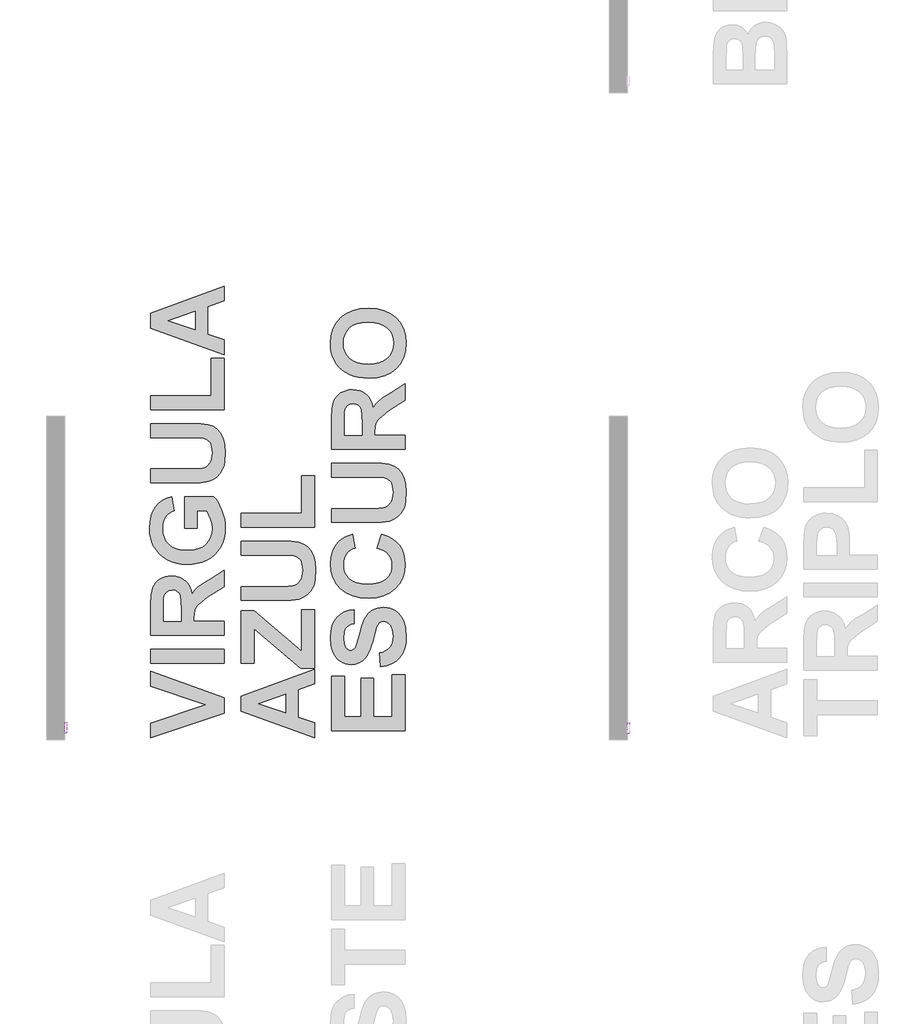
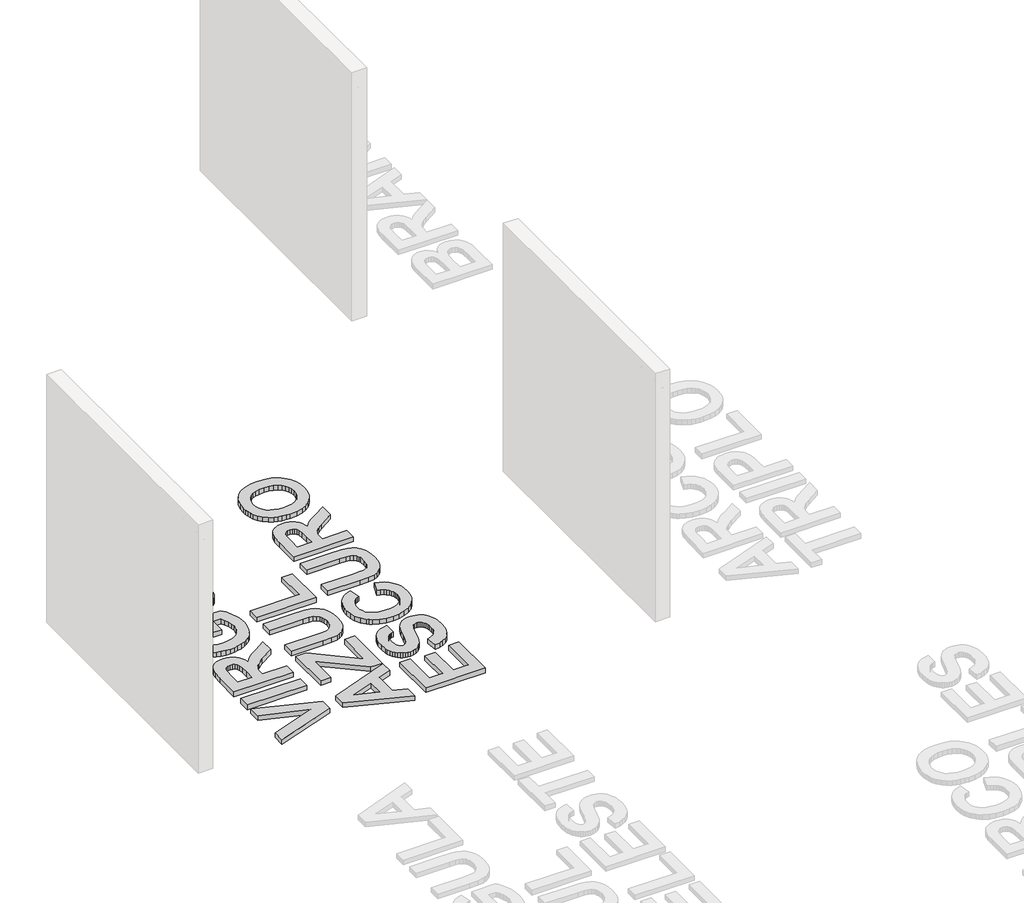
# One storey, part 10 of 12: 3 proxies.
"""IFC4 building model written with IfcOpenShell, lengths in millimetres."""

from ifc_helpers import new_model, si_unit, frame, origin, origin_with_axes, place, context, project, spatial, polyline, outline, extrude, element, save

model = new_model("IFC4")

# Units and contexts
model_context = context("Model", 3, world=origin())
ifc_project = project(units=[si_unit("LENGTHUNIT", "METRE", prefix="MILLI")], contexts=[model_context])

# Site, building, storey
site = spatial("IfcSite", under=ifc_project)
building = spatial("IfcBuilding", under=site)
storey = spatial("IfcBuildingStorey", under=building, Name="PORTOBELLO - SHOWROOM", Elevation=0.0)

# Proxies
placement = place(None, origin())
element("IfcBuildingElementProxy", 1, Name="10mm Arial", ObjectType="10mm Arial", at=placement, inside=storey, context=model_context, shape_type="SweptSolid", body=[
    extrude(outline(polyline([(1623.3898167, 2548.8308244), (1663.4889542, 2649.2871345), (1674.1820575, 2649.2871345), (1714.281195, 2548.8308244), (1701.0129177, 2548.8308244), (1689.510474, 2580.2234213), (1648.1360123, 2580.2234213), (1636.658094, 2548.8308244), (1623.3898167, 2548.8308244)]), holes=[polyline([(1652.7468, 2592.7804601), (1684.9242118, 2592.7804601), (1675.8743147, 2617.4776047), (1668.8355059, 2636.7300958), (1662.581512, 2619.6358457), (1652.7468, 2592.7804601)])]), frame((13302.9163978, 0.0, 0.0), z_axis=(1.0, 0.0, 0.0), x_axis=(0.0, 1.0, 0.0)), (0.0, 0.0, 1.0), 20.0),
    extrude(outline(polyline([(1726.1269953, 2548.8308244), (1726.1269953, 2622.6034272), (1737.1144042, 2622.6034272), (1737.1144042, 2611.6895946), (1744.9135025, 2621.7450358), (1752.7616517, 2624.173057), (1765.3677414, 2620.2980333), (1761.1738867, 2609.0408443), (1752.3447188, 2611.6160182), (1745.2445963, 2609.1389461), (1740.7196477, 2602.2718156), (1738.684034, 2587.6055867), (1738.684034, 2548.8308244), (1726.1269953, 2548.8308244)])), frame((13302.9163978, 0.0, 0.0), z_axis=(1.0, 0.0, 0.0), x_axis=(0.0, 1.0, 0.0)), (0.0, 0.0, 1.0), 20.0),
    extrude(outline(polyline([(1820.304786, 2575.5145318), (1832.8618248, 2573.9449019), (1829.3608145, 2562.7766177), (1822.7818581, 2554.3367916), (1813.7442238, 2549.0300938), (1802.8671795, 2547.2611945), (1789.5099973, 2549.7290696), (1779.0652144, 2557.1326947), (1772.3237768, 2569.1471076), (1770.076631, 2585.4473456), (1773.9148664, 2606.3062548), (1785.6135139, 2619.7094221), (1802.6955012, 2624.173057), (1813.3058311, 2622.6402154), (1821.7885767, 2618.0416904), (1827.8739581, 2610.6227368), (1831.292195, 2600.6286093), (1818.7351562, 2599.0589795), (1812.9103579, 2608.4644958), (1802.7936031, 2611.6160182), (1794.6787394, 2610.0647825), (1788.2377388, 2605.4110752), (1784.034687, 2597.4035105), (1782.6336697, 2585.7907022), (1784.0040302, 2574.021544), (1788.1151115, 2565.9863881), (1794.4396161, 2561.360272), (1802.4502465, 2559.8182333), (1814.283784, 2563.6687315), (1820.304786, 2575.5145318)])), frame((13302.9163978, 0.0, 0.0), z_axis=(1.0, 0.0, 0.0), x_axis=(0.0, 1.0, 0.0)), (0.0, 0.0, 1.0), 20.0),
    extrude(outline(polyline([(1840.709974, 2585.7171258), (1843.4261694, 2603.5042202), (1851.5747556, 2616.0060767), (1861.6424596, 2622.1313119), (1873.6967263, 2624.173057), (1886.8883615, 2621.6867878), (1897.425115, 2614.2279804), (1904.3320994, 2602.3852458), (1906.6344276, 2586.7471954), (1902.5632001, 2564.4044955), (1890.7051372, 2551.7616176), (1873.6967263, 2547.2611945), (1860.3456755, 2549.7382666), (1849.8211848, 2557.1694829), (1842.9877767, 2569.2605379), (1840.709974, 2585.7171258)]), holes=[polyline([(1853.2670128, 2585.7416512), (1854.7201467, 2574.3771633), (1859.0795483, 2566.2806937), (1865.6401106, 2561.4338484), (1873.6967263, 2559.8182333), (1881.7165538, 2561.4430455), (1888.2648533, 2566.3174819), (1892.6242549, 2574.5212504), (1894.0773888, 2586.1340587), (1892.6150579, 2597.1674529), (1888.2280651, 2605.1535578), (1881.6705685, 2610.0004031), (1873.6967263, 2611.6160182), (1865.6401106, 2610.0065345), (1859.0795483, 2605.1780833), (1854.7201467, 2597.1000078), (1853.2670128, 2585.7416512)])]), frame((13302.9163978, 0.0, 0.0), z_axis=(1.0, 0.0, 0.0), x_axis=(0.0, 1.0, 0.0)), (0.0, 0.0, 1.0), 20.0),
    extrude(outline(polyline([(1986.6855497, 2548.8308244), (1986.6855497, 2636.7300958), (1953.7233229, 2636.7300958), (1953.7233229, 2649.2871345), (2032.2048153, 2649.2871345), (2032.2048153, 2636.7300958), (1999.2425885, 2636.7300958), (1999.2425885, 2548.8308244), (1986.6855497, 2548.8308244)])), frame((13302.9163978, 0.0, 0.0), z_axis=(1.0, 0.0, 0.0), x_axis=(0.0, 1.0, 0.0)), (0.0, 0.0, 1.0), 20.0),
    extrude(outline(polyline([(2044.761854, 2548.8308244), (2044.761854, 2622.6034272), (2055.7492629, 2622.6034272), (2055.7492629, 2611.6895946), (2063.5483612, 2621.7450358), (2071.3965105, 2624.173057), (2084.0026002, 2620.2980333), (2079.8087454, 2609.0408443), (2070.9795775, 2611.6160182), (2063.879455, 2609.1389461), (2059.3545065, 2602.2718156), (2057.3188928, 2587.6055867), (2057.3188928, 2548.8308244), (2044.761854, 2548.8308244)])), frame((13302.9163978, 0.0, 0.0), z_axis=(1.0, 0.0, 0.0), x_axis=(0.0, 1.0, 0.0)), (0.0, 0.0, 1.0), 20.0),
    extrude(outline(polyline([(13322.9163978, 2104.4077882), (13322.9163978, 2091.8507494), (13302.9163978, 2091.8507494), (13302.9163978, 2104.4077882), (13322.9163978, 2104.4077882)])), frame((0.0, 0.0, 2636.7300958), z_axis=(0.0, 0.0, 1.0), x_axis=(1.0, 0.0, 0.0)), (0.0, 0.0, 1.0), 12.5570388),
    extrude(outline(polyline([(13322.9163978, 2104.4077882), (13322.9163978, 2091.8507494), (13302.9163978, 2091.8507494), (13302.9163978, 2104.4077882), (13322.9163978, 2104.4077882)])), frame((0.0, 0.0, 2548.8308244), z_axis=(0.0, 0.0, 1.0), x_axis=(1.0, 0.0, 0.0)), (0.0, 0.0, 1.0), 73.7726028),
    extrude(outline(polyline([(2123.2433463, 2520.5774872), (2123.2433463, 2622.6034272), (2135.8003851, 2622.6034272), (2135.8003851, 2610.291643), (2144.4824002, 2620.7027035), (2156.2055731, 2624.173057), (2172.1226007, 2619.3170147), (2182.5213985, 2605.6318044), (2186.0285402, 2586.2812115), (2182.0676774, 2565.9373372), (2170.5652336, 2552.0804487), (2154.6849942, 2547.2611945), (2143.7588989, 2550.4862934), (2135.8003851, 2558.6410109), (2135.8003851, 2520.5774872), (2123.2433463, 2520.5774872)]), holes=[polyline([(2135.8003851, 2585.1285146), (2137.1584828, 2573.8713255), (2141.2327759, 2565.9986508), (2147.2445808, 2561.3633377), (2154.415214, 2559.8182333), (2161.7023432, 2561.41852), (2167.8674323, 2566.21938), (2172.0704841, 2574.3802289), (2173.4715014, 2586.0604823), (2172.1042066, 2597.2563577), (2168.0023224, 2605.239397), (2161.9997145, 2610.0218629), (2154.9302488, 2611.6160182), (2147.833192, 2609.9206954), (2141.6006579, 2604.8347268), (2137.2504533, 2596.517528), (2135.8003851, 2585.1285146)])]), frame((13302.9163978, 0.0, 0.0), z_axis=(1.0, 0.0, 0.0), x_axis=(0.0, 1.0, 0.0)), (0.0, 0.0, 1.0), 20.0),
    extrude(outline(polyline([(13322.9163978, 2212.7122476), (13322.9163978, 2200.1552088), (13302.9163978, 2200.1552088), (13302.9163978, 2212.7122476), (13322.9163978, 2212.7122476)])), frame((0.0, 0.0, 2548.8308244), z_axis=(0.0, 0.0, 1.0), x_axis=(1.0, 0.0, 0.0)), (0.0, 0.0, 1.0), 100.4563101),
    extrude(outline(polyline([(2228.408546, 2585.7171258), (2231.1247414, 2603.5042202), (2239.2733276, 2616.0060767), (2249.3410315, 2622.1313119), (2261.3952982, 2624.173057), (2274.5869335, 2621.6867878), (2285.1236869, 2614.2279804), (2292.0306714, 2602.3852458), (2294.3329995, 2586.7471954), (2290.2617721, 2564.4044955), (2278.4037092, 2551.7616176), (2261.3952982, 2547.2611945), (2248.0442475, 2549.7382666), (2237.5197568, 2557.1694829), (2230.6863487, 2569.2605379), (2228.408546, 2585.7171258)]), holes=[polyline([(2240.9655848, 2585.7416512), (2242.4187187, 2574.3771633), (2246.7781203, 2566.2806937), (2253.3386826, 2561.4338484), (2261.3952982, 2559.8182333), (2269.4151257, 2561.4430455), (2275.9634253, 2566.3174819), (2280.3228269, 2574.5212504), (2281.7759608, 2586.1340587), (2280.3136298, 2597.1674529), (2275.9266371, 2605.1535578), (2269.3691405, 2610.0004031), (2261.3952982, 2611.6160182), (2253.3386826, 2610.0065345), (2246.7781203, 2605.1780833), (2242.4187187, 2597.1000078), (2240.9655848, 2585.7416512)])]), frame((13302.9163978, 0.0, 0.0), z_axis=(1.0, 0.0, 0.0), x_axis=(0.0, 1.0, 0.0)), (0.0, 0.0, 1.0), 20.0),
])
element("IfcBuildingElementProxy", 2, Name="10mm Arial", ObjectType="10mm Arial", at=placement, inside=storey, context=model_context, shape_type="SweptSolid", body=[
    extrude(outline(polyline([(1664.7642785, 2548.8308244), (1624.7877683, 2649.2871345), (1638.2277239, 2649.2871345), (1664.9850077, 2576.9124833), (1670.4051357, 2560.6030482), (1675.7516874, 2576.9124833), (1702.5825476, 2649.2871345), (1716.0225031, 2649.2871345), (1677.7382502, 2548.8308244), (1664.7642785, 2548.8308244)])), frame((8602.9163978, 0.0, 0.0), z_axis=(1.0, 0.0, 0.0), x_axis=(0.0, 1.0, 0.0)), (0.0, 0.0, 1.0), 20.0),
    extrude(outline(polyline([(8622.9163978, 1738.684034), (8622.9163978, 1726.1269953), (8602.9163978, 1726.1269953), (8602.9163978, 1738.684034), (8622.9163978, 1738.684034)])), frame((0.0, 0.0, 2548.8308244), z_axis=(0.0, 0.0, 1.0), x_axis=(1.0, 0.0, 0.0)), (0.0, 0.0, 1.0), 73.7726028),
    extrude(outline(polyline([(8622.9163978, 1738.684034), (8622.9163978, 1726.1269953), (8602.9163978, 1726.1269953), (8602.9163978, 1738.684034), (8622.9163978, 1738.684034)])), frame((0.0, 0.0, 2636.7300958), z_axis=(0.0, 0.0, 1.0), x_axis=(1.0, 0.0, 0.0)), (0.0, 0.0, 1.0), 12.5570388),
    extrude(outline(polyline([(1757.5195922, 2548.8308244), (1757.5195922, 2622.6034272), (1768.5070011, 2622.6034272), (1768.5070011, 2611.6895946), (1776.3060994, 2621.7450358), (1784.1542486, 2624.173057), (1796.7603383, 2620.2980333), (1792.5664836, 2609.0408443), (1783.7373157, 2611.6160182), (1776.6371932, 2609.1389461), (1772.1122447, 2602.2718156), (1770.076631, 2587.6055867), (1770.076631, 2548.8308244), (1757.5195922, 2548.8308244)])), frame((8602.9163978, 0.0, 0.0), z_axis=(1.0, 0.0, 0.0), x_axis=(0.0, 1.0, 0.0)), (0.0, 0.0, 1.0), 20.0),
    extrude(outline(polyline([(1801.4692279, 2542.552305), (1814.0262666, 2540.9826752), (1818.0974941, 2534.3607992), (1830.2866508, 2531.5648961), (1843.1379952, 2534.7286812), (1849.2693618, 2543.6069001), (1850.1277531, 2558.2486035), (1841.2863225, 2551.1852692), (1830.50738, 2548.8308244), (1817.5609995, 2551.5715452), (1807.9071628, 2559.7937078), (1801.9014892, 2571.8479745), (1799.899598, 2586.0850078), (1803.4925788, 2605.5459653), (1813.8913766, 2619.3170147), (1829.8942434, 2624.173057), (1841.0962501, 2621.4262048), (1850.1277531, 2613.1856481), (1850.1277531, 2622.6034272), (1862.6847919, 2622.6034272), (1862.6847919, 2558.9107911), (1859.2512266, 2534.5202148), (1848.3741823, 2523.1771866), (1830.0413962, 2519.0078573), (1818.3580771, 2520.4763196), (1809.1579616, 2524.8817065), (1803.2565212, 2532.2362807), (1801.4692279, 2542.552305)]), holes=[polyline([(1812.4566368, 2586.9433991), (1813.7963404, 2575.425627), (1817.8154512, 2567.506967), (1823.857913, 2562.9176391), (1831.2676695, 2561.3878632), (1838.6222437, 2562.9084421), (1844.6953623, 2567.4701788), (1848.7696554, 2575.2876712), (1850.1277531, 2586.5755171), (1848.7298015, 2597.4617585), (1844.5359468, 2605.3007106), (1838.3739234, 2610.0371913), (1831.0714658, 2611.6160182), (1823.9008325, 2610.0617168), (1817.8890276, 2605.3988125), (1813.8147345, 2597.6763563), (1812.4566368, 2586.9433991)])]), frame((8602.9163978, 0.0, 0.0), z_axis=(1.0, 0.0, 0.0), x_axis=(0.0, 1.0, 0.0)), (0.0, 0.0, 1.0), 20.0),
    extrude(outline(polyline([(1928.6092454, 2548.8308244), (1928.6092454, 2561.5104905), (1918.7745334, 2550.8235185), (1905.9477145, 2547.2611945), (1894.1387025, 2549.7627921), (1885.9962476, 2556.0413115), (1882.256114, 2565.2874123), (1881.52035, 2576.9615343), (1881.52035, 2622.6034272), (1894.0773888, 2622.6034272), (1894.0773888, 2582.8721717), (1894.8376783, 2570.0698782), (1899.8040852, 2562.5528228), (1909.1605506, 2559.8182333), (1919.6451875, 2562.6141365), (1926.5736317, 2570.2292938), (1928.6092454, 2584.2210723), (1928.6092454, 2622.6034272), (1941.1662842, 2622.6034272), (1941.1662842, 2548.8308244), (1928.6092454, 2548.8308244)])), frame((8602.9163978, 0.0, 0.0), z_axis=(1.0, 0.0, 0.0), x_axis=(0.0, 1.0, 0.0)), (0.0, 0.0, 1.0), 20.0),
    extrude(outline(polyline([(8622.9163978, 1970.9892513), (8622.9163978, 1958.4322125), (8602.9163978, 1958.4322125), (8602.9163978, 1970.9892513), (8622.9163978, 1970.9892513)])), frame((0.0, 0.0, 2548.8308244), z_axis=(0.0, 0.0, 1.0), x_axis=(1.0, 0.0, 0.0)), (0.0, 0.0, 1.0), 100.4563101),
    extrude(outline(polyline([(2036.9137048, 2558.2486035), (2024.7368107, 2549.7382666), (2011.2845925, 2547.2611945), (2000.7907585, 2548.7511166), (1993.0499082, 2553.2208829), (1988.2766393, 2560.0083057), (1986.6855497, 2568.4511975), (1989.0890454, 2578.3840113), (1995.404353, 2585.5944984), (2004.1967327, 2589.7147768), (2015.0615143, 2591.6032377), (2036.8401284, 2595.9197198), (2036.9137048, 2598.7156229), (2033.455614, 2607.9862492), (2019.5742001, 2611.6160182), (2006.8700085, 2609.2002598), (2000.8122183, 2600.6286093), (1988.2551796, 2602.1982392), (1993.6875704, 2614.4609723), (2004.6259283, 2621.646934), (2021.1928809, 2624.173057), (2036.4109327, 2621.9412396), (2045.0071087, 2616.3371705), (2048.8576069, 2607.8145709), (2049.4707436, 2596.827162), (2049.4707436, 2581.20444), (2050.1084057, 2559.3890376), (2052.6100032, 2548.8308244), (2040.0529645, 2548.8308244), (2036.9137048, 2558.2486035)]), holes=[polyline([(2036.9137048, 2583.362681), (2016.6556696, 2579.5121828), (2005.8522017, 2577.4765691), (2000.9593711, 2574.1656311), (1999.2425885, 2569.3341142), (2002.9827221, 2562.5405601), (2013.9578683, 2559.8182333), (2026.6620599, 2562.8226029), (2034.8535656, 2570.0944037), (2036.8401284, 2579.8064884), (2036.9137048, 2583.362681)])]), frame((8602.9163978, 0.0, 0.0), z_axis=(1.0, 0.0, 0.0), x_axis=(0.0, 1.0, 0.0)), (0.0, 0.0, 1.0), 20.0),
    extrude(outline(polyline([(2095.8484004, 2548.8308244), (2135.9475379, 2649.2871345), (2146.6406412, 2649.2871345), (2186.7397787, 2548.8308244), (2173.4715014, 2548.8308244), (2161.9690577, 2580.2234213), (2120.594596, 2580.2234213), (2109.1166777, 2548.8308244), (2095.8484004, 2548.8308244)]), holes=[polyline([(2125.2053836, 2592.7804601), (2157.3827955, 2592.7804601), (2148.3328984, 2617.4776047), (2141.2940896, 2636.7300958), (2135.0400956, 2619.6358457), (2125.2053836, 2592.7804601)])]), frame((8602.9163978, 0.0, 0.0), z_axis=(1.0, 0.0, 0.0), x_axis=(0.0, 1.0, 0.0)), (0.0, 0.0, 1.0), 20.0),
    extrude(outline(polyline([(2190.7374297, 2548.8308244), (2190.7374297, 2560.6520992), (2234.0739287, 2610.0463884), (2221.2471098, 2610.0463884), (2193.8766894, 2610.0463884), (2193.8766894, 2622.6034272), (2251.9529937, 2622.6034272), (2251.9529937, 2611.9348493), (2213.5215879, 2568.1078409), (2207.635476, 2561.3878632), (2222.1545521, 2561.3878632), (2253.5226235, 2561.3878632), (2253.5226235, 2548.8308244), (2190.7374297, 2548.8308244)])), frame((8602.9163978, 0.0, 0.0), z_axis=(1.0, 0.0, 0.0), x_axis=(0.0, 1.0, 0.0)), (0.0, 0.0, 1.0), 20.0),
    extrude(outline(polyline([(2313.1685577, 2548.8308244), (2313.1685577, 2561.5104905), (2303.3338457, 2550.8235185), (2290.5070268, 2547.2611945), (2278.6980148, 2549.7627921), (2270.5555599, 2556.0413115), (2266.8154263, 2565.2874123), (2266.0796623, 2576.9615343), (2266.0796623, 2622.6034272), (2278.6367011, 2622.6034272), (2278.6367011, 2582.8721717), (2279.3969905, 2570.0698782), (2284.3633975, 2562.5528228), (2293.7198629, 2559.8182333), (2304.2044998, 2562.6141365), (2311.132944, 2570.2292938), (2313.1685577, 2584.2210723), (2313.1685577, 2622.6034272), (2325.7255965, 2622.6034272), (2325.7255965, 2548.8308244), (2313.1685577, 2548.8308244)])), frame((8602.9163978, 0.0, 0.0), z_axis=(1.0, 0.0, 0.0), x_axis=(0.0, 1.0, 0.0)), (0.0, 0.0, 1.0), 20.0),
    extrude(outline(polyline([(8622.9163978, 2355.5485635), (8622.9163978, 2342.9915248), (8602.9163978, 2342.9915248), (8602.9163978, 2355.5485635), (8622.9163978, 2355.5485635)])), frame((0.0, 0.0, 2548.8308244), z_axis=(0.0, 0.0, 1.0), x_axis=(1.0, 0.0, 0.0)), (0.0, 0.0, 1.0), 100.4563101),
    extrude(outline(polyline([(2415.1944977, 2548.8308244), (2415.1944977, 2649.2871345), (2487.3974706, 2649.2871345), (2487.3974706, 2636.7300958), (2427.7515365, 2636.7300958), (2427.7515365, 2606.9071287), (2484.2582109, 2606.9071287), (2484.2582109, 2594.3500899), (2427.7515365, 2594.3500899), (2427.7515365, 2561.3878632), (2488.9671005, 2561.3878632), (2488.9671005, 2548.8308244), (2415.1944977, 2548.8308244)])), frame((8602.9163978, 0.0, 0.0), z_axis=(1.0, 0.0, 0.0), x_axis=(0.0, 1.0, 0.0)), (0.0, 0.0, 1.0), 20.0),
    extrude(outline(polyline([(2501.5241392, 2570.8056422), (2514.081178, 2572.3752721), (2519.8937135, 2563.0555949), (2533.2110417, 2559.8182333), (2546.0133352, 2562.7858147), (2550.1826645, 2569.7510472), (2545.9888097, 2575.3919044), (2533.063889, 2578.9726225), (2514.1547544, 2585.1162518), (2505.901935, 2592.2899507), (2503.0937691, 2602.4189683), (2505.350112, 2611.7754338), (2511.506004, 2618.9246072), (2519.4890433, 2622.6402154), (2530.2925113, 2624.173057), (2545.5718768, 2621.7082476), (2555.2839615, 2615.0373208), (2559.6004435, 2603.767869), (2547.0434048, 2602.1982392), (2542.3222525, 2609.1266834), (2531.2735299, 2611.6160182), (2519.2560514, 2609.237048), (2515.6508078, 2603.6942926), (2517.1468613, 2600.0399981), (2521.8312254, 2597.2686204), (2532.646956, 2594.5953446), (2551.077844, 2588.6847072), (2559.6372317, 2581.9892549), (2562.7397032, 2571.0754224), (2559.0976715, 2559.0579439), (2548.5885091, 2550.3391406), (2533.0393635, 2547.2611945), (2520.3780915, 2548.7449853), (2511.138122, 2553.1963574), (2504.9699673, 2560.56626), (2501.5241392, 2570.8056422)])), frame((8602.9163978, 0.0, 0.0), z_axis=(1.0, 0.0, 0.0), x_axis=(0.0, 1.0, 0.0)), (0.0, 0.0, 1.0), 20.0),
    extrude(outline(polyline([(2623.9552672, 2575.5145318), (2636.512306, 2573.9449019), (2633.0112957, 2562.7766177), (2626.4323393, 2554.3367916), (2617.394705, 2549.0300938), (2606.5176607, 2547.2611945), (2593.1604785, 2549.7290696), (2582.7156956, 2557.1326947), (2575.974258, 2569.1471076), (2573.7271122, 2585.4473456), (2577.5653476, 2606.3062548), (2589.2639951, 2619.7094221), (2606.3459824, 2624.173057), (2616.9563123, 2622.6402154), (2625.4390579, 2618.0416904), (2631.5244393, 2610.6227368), (2634.9426761, 2600.6286093), (2622.3856374, 2599.0589795), (2616.5608391, 2608.4644958), (2606.4440843, 2611.6160182), (2598.3292206, 2610.0647825), (2591.88822, 2605.4110752), (2587.6851682, 2597.4035105), (2586.2841509, 2585.7907022), (2587.6545114, 2574.021544), (2591.7655926, 2565.9863881), (2598.0900973, 2561.360272), (2606.1007277, 2559.8182333), (2617.9342652, 2563.6687315), (2623.9552672, 2575.5145318)])), frame((8602.9163978, 0.0, 0.0), z_axis=(1.0, 0.0, 0.0), x_axis=(0.0, 1.0, 0.0)), (0.0, 0.0, 1.0), 20.0),
    extrude(outline(polyline([(2694.5886103, 2548.8308244), (2694.5886103, 2561.5104905), (2684.7538983, 2550.8235185), (2671.9270794, 2547.2611945), (2660.1180674, 2549.7627921), (2651.9756125, 2556.0413115), (2648.2354789, 2565.2874123), (2647.4997149, 2576.9615343), (2647.4997149, 2622.6034272), (2660.0567537, 2622.6034272), (2660.0567537, 2582.8721717), (2660.8170431, 2570.0698782), (2665.7834501, 2562.5528228), (2675.1399155, 2559.8182333), (2685.6245523, 2562.6141365), (2692.5529966, 2570.2292938), (2694.5886103, 2584.2210723), (2694.5886103, 2622.6034272), (2707.1456491, 2622.6034272), (2707.1456491, 2548.8308244), (2694.5886103, 2548.8308244)])), frame((8602.9163978, 0.0, 0.0), z_axis=(1.0, 0.0, 0.0), x_axis=(0.0, 1.0, 0.0)), (0.0, 0.0, 1.0), 20.0),
    extrude(outline(polyline([(2724.4115774, 2548.8308244), (2724.4115774, 2622.6034272), (2735.3989863, 2622.6034272), (2735.3989863, 2611.6895946), (2743.1980846, 2621.7450358), (2751.0462338, 2624.173057), (2763.6523235, 2620.2980333), (2759.4584688, 2609.0408443), (2750.6293009, 2611.6160182), (2743.5291784, 2609.1389461), (2739.0042299, 2602.2718156), (2736.9686161, 2587.6055867), (2736.9686161, 2548.8308244), (2724.4115774, 2548.8308244)])), frame((8602.9163978, 0.0, 0.0), z_axis=(1.0, 0.0, 0.0), x_axis=(0.0, 1.0, 0.0)), (0.0, 0.0, 1.0), 20.0),
    extrude(outline(polyline([(2768.3612131, 2585.7171258), (2771.0774085, 2603.5042202), (2779.2259947, 2616.0060767), (2789.2936986, 2622.1313119), (2801.3479653, 2624.173057), (2814.5396005, 2621.6867878), (2825.076354, 2614.2279804), (2831.9833384, 2602.3852458), (2834.2856666, 2586.7471954), (2830.2144392, 2564.4044955), (2818.3563762, 2551.7616176), (2801.3479653, 2547.2611945), (2787.9969146, 2549.7382666), (2777.4724238, 2557.1694829), (2770.6390158, 2569.2605379), (2768.3612131, 2585.7171258)]), holes=[polyline([(2780.9182518, 2585.7416512), (2782.3713857, 2574.3771633), (2786.7307874, 2566.2806937), (2793.2913496, 2561.4338484), (2801.3479653, 2559.8182333), (2809.3677928, 2561.4430455), (2815.9160923, 2566.3174819), (2820.275494, 2574.5212504), (2821.7286278, 2586.1340587), (2820.2662969, 2597.1674529), (2815.8793041, 2605.1535578), (2809.3218075, 2610.0004031), (2801.3479653, 2611.6160182), (2793.2913496, 2610.0065345), (2786.7307874, 2605.1780833), (2782.3713857, 2597.1000078), (2780.9182518, 2585.7416512)])]), frame((8602.9163978, 0.0, 0.0), z_axis=(1.0, 0.0, 0.0), x_axis=(0.0, 1.0, 0.0)), (0.0, 0.0, 1.0), 20.0),
])
element("IfcBuildingElementProxy", 3, Name="600mm Arial", ObjectType="600mm Arial", at=placement, inside=storey, context=model_context, shape_type="SweptSolid", body=[
    extrude(outline(polyline([(9936.2154342, 1794.6763758), (9324.0597942, 1588.347131), (9324.0597942, 1711.3248266), (9780.7473352, 1865.2746825), (9324.0597942, 2019.6800113), (9324.0597942, 2142.2022339), (9936.2154342, 1924.9416384), (9936.2154342, 1794.6763758)])), origin_with_axes(), (0.0, 0.0, 1.0), 50.0),
    extrude(outline(polyline([(9936.2154342, 2210.2195272), (9324.0597942, 2210.2195272), (9324.0597942, 2326.8206015), (9936.2154342, 2326.8206015), (9936.2154342, 2210.2195272)])), origin_with_axes(), (0.0, 0.0, 1.0), 50.0),
    extrude(outline(polyline([(9936.2154342, 2443.4216758), (9324.0597942, 2443.4216758), (9324.0597942, 2700.9157148), (9328.1970068, 2784.7986491), (9333.3685226, 2816.7766455), (9340.6086446, 2842.1123282), (9350.4962032, 2863.0261276), (9363.6100284, 2881.7384745), (9379.9501204, 2898.2493688), (9399.516479, 2912.5588106), (9421.4645816, 2924.1164366), (9444.9499054, 2932.3718837), (9469.9724504, 2937.325152), (9496.5322166, 2938.9762415), (9529.6394064, 2936.589753), (9559.7290879, 2929.4302876), (9586.8012612, 2917.4978453), (9610.8559262, 2900.7924261), (9631.3142527, 2879.333008), (9647.5974105, 2853.1385691), (9659.7053997, 2822.2091093), (9667.6382201, 2786.5446287), (9692.0060228, 2820.363495), (9718.6511901, 2847.7298279), (9757.2525223, 2876.0450627), (9817.4888195, 2912.7106349), (9936.2154342, 2987.5600224), (9936.2154342, 2851.3736114), (9796.3852397, 2762.7082112), (9742.6963661, 2719.8747762), (9713.4132513, 2693.0967626), (9699.0089193, 2673.7771184), (9689.9563945, 2653.3187919), (9685.1739286, 2626.1612175), (9683.5797733, 2586.7438296), (9683.5797733, 2560.0227501), (9936.2154342, 2560.0227501), (9936.2154342, 2443.4216758)]), holes=[polyline([(9576.6954552, 2560.0227501), (9576.6954552, 2656.1275417), (9574.9304975, 2731.9827654), (9569.6356245, 2772.8045282), (9560.0327366, 2793.5665033), (9545.343734, 2809.2423639), (9525.9671558, 2819.0919664), (9502.3015406, 2822.3751672), (9476.0928681, 2818.0481742), (9455.4637393, 2805.0671952), (9440.907583, 2784.1913518), (9432.9178284, 2756.1797656), (9430.9441123, 2661.4413928), (9430.9441123, 2560.0227501), (9576.6954552, 2560.0227501)])]), origin_with_axes(), (0.0, 0.0, 1.0), 50.0),
    extrude(outline(polyline([(9712.7300418, 3337.3632453), (9605.8457237, 3337.3632453), (9605.8457237, 3599.7156624), (9849.979223, 3599.7156624), (9868.4590889, 3578.4412802), (9885.7907834, 3552.8778611), (9917.0096583, 3488.8839121), (9929.6632661, 3452.4840325), (9938.7015574, 3415.8564164), (9944.1245321, 3379.0010638), (9945.9321904, 3341.9179747), (9943.4176002, 3296.2093667), (9935.8738295, 3253.518267), (9923.3008784, 3213.8446756), (9905.6987468, 3177.1885924), (9883.423273, 3144.2237379), (9856.8302953, 3115.6238325), (9825.9198135, 3091.3888762), (9790.6918278, 3071.5188689), (9752.4842899, 3056.0422777), (9712.6351516, 3044.9875697), (9671.1444129, 3038.354745), (9628.0120738, 3036.1438034), (9581.662957, 3038.6441601), (9537.9612767, 3046.1452301), (9496.9070329, 3058.6470136), (9458.5002256, 3076.1495105), (9423.5758885, 3098.4724294), (9392.9690554, 3125.4354789), (9366.6797263, 3157.0386591), (9344.7079011, 3193.2819699), (9331.4232735, 3224.4628887), (9321.9342538, 3259.2496349), (9316.240842, 3297.6422087), (9314.343038, 3339.64061), (9317.4079914, 3393.3911622), (9326.6028515, 3440.9264064), (9341.9276184, 3482.2463428), (9363.3822919, 3517.3509712), (9390.2457068, 3546.4964953), (9421.7966973, 3569.9391185), (9458.0352636, 3587.6788409), (9498.9614057, 3599.7156624), (9518.394918, 3483.1145881), (9497.0398792, 3474.7927178), (9478.0665842, 3463.4912953), (9461.4750333, 3449.2103207), (9447.2652262, 3431.9497938), (9435.8736581, 3412.0323414), (9427.7368237, 3389.7805902), (9422.854723, 3365.1945401), (9421.2273561, 3338.2741911), (9424.4061777, 3297.9363683), (9433.9426426, 3261.9445165), (9449.8367506, 3230.2986358), (9472.0885018, 3202.9987261), (9500.6030061, 3181.0126674), (9535.2853731, 3165.3083398), (9576.135603, 3155.8857432), (9623.1536957, 3152.7448776), (9673.7538933, 3155.8667651), (9717.607398, 3165.2324276), (9754.7142096, 3180.841865), (9785.0743282, 3202.6950774), (9808.6877537, 3229.6154264), (9825.5544863, 3260.4262734), (9835.6745258, 3295.1276185), (9839.0478723, 3333.7194617), (9835.3471546, 3373.7441469), (9824.2450015, 3413.9586124), (9807.8669535, 3451.4022842), (9788.3385509, 3483.1145881), (9712.7300418, 3483.1145881), (9712.7300418, 3337.3632453)])), origin_with_axes(), (0.0, 0.0, 1.0), 50.0),
    extrude(outline(polyline([(9324.0597942, 3716.3167367), (9324.0597942, 3832.9178109), (9654.2776804, 3832.9178109), (9719.1066631, 3834.1703616), (9756.3036204, 3837.9280134), (9774.0623208, 3843.7447824), (9789.9896404, 3852.5411037), (9804.0855792, 3864.3169772), (9816.3501371, 3879.0724029), (9826.2803963, 3896.8073807), (9833.3734385, 3917.5219107), (9839.0478723, 3967.8896274), (9833.6960652, 4018.2004099), (9827.0063063, 4038.0466947), (9817.6406438, 4054.3535751), (9793.7852483, 4077.6396294), (9765.0335185, 4089.3490798), (9723.5285463, 4093.789941), (9661.4134232, 4095.2702281), (9324.0597942, 4095.2702281), (9324.0597942, 4211.8713024), (9645.1682215, 4211.8713024), (9739.1854288, 4209.3282451), (9800.7881448, 4201.6990732), (9842.6726778, 4187.2378072), (9877.5353363, 4164.1984673), (9905.6797688, 4132.2584269), (9927.4096239, 4091.0950594), (9941.3015488, 4038.3171317), (9945.9321904, 3971.533411), (9940.8840319, 3893.3059324), (9934.5738338, 3862.2483709), (9925.7395564, 3836.5615945), (9902.5104362, 3795.3792489), (9873.2083433, 3763.8377474), (9840.0726864, 3741.6713974), (9805.3428743, 3728.6145062), (9740.2861551, 3719.3911791), (9650.1784239, 3716.3167367), (9324.0597942, 3716.3167367)])), origin_with_axes(), (0.0, 0.0, 1.0), 50.0),
    extrude(outline(polyline([(9936.2154342, 4328.4723766), (9324.0597942, 4328.4723766), (9324.0597942, 4445.0734509), (9829.3311161, 4445.0734509), (9829.3311161, 4756.009649), (9936.2154342, 4756.009649), (9936.2154342, 4328.4723766)])), origin_with_axes(), (0.0, 0.0, 1.0), 50.0),
    extrude(outline(polyline([(9936.2154342, 5358.4485328), (9936.2154342, 5235.9263102), (9800.1808475, 5187.9498265), (9800.1808475, 4956.7213941), (9936.2154342, 4909.3522076), (9936.2154342, 4785.1599176), (9324.0597942, 5008.6453099), (9324.0597942, 5132.8376), (9936.2154342, 5358.4485328)]), holes=[polyline([(9693.2965295, 5150.6010449), (9469.8111371, 5071.8042252), (9693.2965295, 4994.0701757), (9693.2965295, 5150.6010449)])]), origin_with_axes(), (0.0, 0.0, 1.0), 50.0),
    extrude(outline(polyline([(10691.6835332, 2161.6357463), (10691.6835332, 2039.1135237), (10555.6489466, 1991.13704), (10555.6489466, 1759.9086075), (10691.6835332, 1712.5394211), (10691.6835332, 1588.347131), (10079.5278933, 1811.8325234), (10079.5278933, 1936.0248135), (10691.6835332, 2161.6357463)]), holes=[polyline([(10448.7646285, 1953.7882584), (10225.2792361, 1874.9914387), (10448.7646285, 1797.2573891), (10448.7646285, 1953.7882584)])]), origin_with_axes(), (0.0, 0.0, 1.0), 50.0),
    extrude(outline(polyline([(10691.6835332, 2171.3525024), (10575.082459, 2171.3525024), (10186.4122114, 2499.4448482), (10186.4122114, 2210.2195272), (10079.5278933, 2210.2195272), (10079.5278933, 2647.4735558), (10186.4122114, 2647.4735558), (10584.7992152, 2311.182697), (10584.7992152, 2657.190312), (10691.6835332, 2657.190312), (10691.6835332, 2171.3525024)])), origin_with_axes(), (0.0, 0.0, 1.0), 50.0),
    extrude(outline(polyline([(10079.5278933, 2734.9243615), (10079.5278933, 2851.5254358), (10409.7457794, 2851.5254358), (10474.5747621, 2852.7779864), (10511.7717194, 2856.5356382), (10529.5304198, 2862.3524072), (10545.4577394, 2871.1487285), (10559.5536782, 2882.924602), (10571.8182362, 2897.6800277), (10581.7484953, 2915.4150055), (10588.8415376, 2936.1295355), (10594.5159713, 2986.4972522), (10589.1641642, 3036.8080347), (10582.4744053, 3056.6543195), (10573.1087429, 3072.9611999), (10549.2533473, 3096.2472543), (10520.5016176, 3107.9567046), (10478.9966453, 3112.3975658), (10416.8815222, 3113.8778529), (10079.5278933, 3113.8778529), (10079.5278933, 3230.4789272), (10400.6363205, 3230.4789272), (10494.6535278, 3227.9358699), (10556.2562438, 3220.306698), (10598.1407769, 3205.845432), (10633.0034353, 3182.8060921), (10661.1478678, 3150.8660517), (10682.877723, 3109.7026842), (10696.7696478, 3056.9247565), (10701.4002894, 2990.1410358), (10696.3521309, 2911.9135572), (10690.0419328, 2880.8559957), (10681.2076555, 2855.1692193), (10657.9785352, 2813.9868738), (10628.6764423, 2782.4453722), (10595.5407855, 2760.2790222), (10560.8109733, 2747.222131), (10495.7542541, 2737.9988039), (10405.6465229, 2734.9243615), (10079.5278933, 2734.9243615)])), origin_with_axes(), (0.0, 0.0, 1.0), 50.0),
    extrude(outline(polyline([(10691.6835332, 3347.0800014), (10079.5278933, 3347.0800014), (10079.5278933, 3463.6810757), (10584.7992152, 3463.6810757), (10584.7992152, 3774.6172738), (10691.6835332, 3774.6172738), (10691.6835332, 3347.0800014)])), origin_with_axes(), (0.0, 0.0, 1.0), 50.0),
    extrude(outline(polyline([(11447.1516323, 1646.6476682), (10834.9959923, 1646.6476682), (10834.9959923, 2103.3352091), (10941.8803104, 2103.3352091), (10941.8803104, 1763.2487425), (11077.9148971, 1763.2487425), (11077.9148971, 2083.9016967), (11184.7992152, 2083.9016967), (11184.7992152, 1763.2487425), (11340.2673142, 1763.2487425), (11340.2673142, 2113.0519653), (11447.1516323, 2113.0519653), (11447.1516323, 1646.6476682)])), origin_with_axes(), (0.0, 0.0, 1.0), 50.0),
    extrude(outline(polyline([(11243.0997523, 2181.0692586), (11233.3829961, 2297.6703329), (11261.4515164, 2304.7301636), (11285.5346485, 2314.6746563), (11305.6323922, 2327.5038109), (11321.7447477, 2343.2176276), (11334.0994514, 2361.8635513), (11342.9242397, 2383.4890272), (11348.2191127, 2408.0940554), (11349.9840704, 2435.6786357), (11348.4231266, 2464.6675909), (11343.7402954, 2489.8419602), (11335.9355767, 2511.2017436), (11325.0089705, 2528.7469411), (11311.99478, 2542.4301075), (11297.9273082, 2552.2037978), (11282.8065553, 2558.068012), (11266.6325212, 2560.0227501), (11246.80047, 2556.7775053), (11230.1187733, 2547.0417711), (11216.01809, 2529.183436), (11203.9290789, 2501.5703886), (11177.967121, 2400.4553945), (11165.2992796, 2353.522703), (11151.1321732, 2314.1432711), (11135.4658016, 2282.317099), (11118.300165, 2258.0441866), (11091.7214208, 2232.8698173), (11062.3908608, 2214.8881249), (11030.3084851, 2204.0991095), (10995.4742938, 2200.502771), (10972.5488221, 2202.1538604), (10950.3824721, 2207.1071287), (10928.9752436, 2215.3625759), (10908.3271367, 2226.9202019), (10889.2636961, 2241.5902264), (10872.6104665, 2259.1828689), (10858.3674479, 2279.6981296), (10846.5346403, 2303.1360083), (10837.235401, 2329.3162137), (10830.5930872, 2358.0584544), (10825.2792361, 2423.2290418), (10828.590904, 2477.1409073), (10838.5259077, 2523.9454971), (10855.0842471, 2563.6428111), (10878.2659222, 2596.2328493), (10906.9702069, 2621.819991), (10940.0963747, 2640.5086153), (10977.6444257, 2652.2987223), (11019.6143599, 2657.190312), (11019.6143599, 2540.5892377), (10997.9461834, 2535.3180872), (10979.5517187, 2527.7031489), (10964.4309658, 2517.7444227), (10952.5839246, 2505.4419086), (10943.6500126, 2490.2831996), (10937.2686468, 2471.7558886), (10932.1635542, 2424.5954607), (10937.5912735, 2374.9489095), (10944.3759226, 2354.6803634), (10953.8744313, 2337.4483036), (10970.1955452, 2322.1899599), (10991.2232129, 2317.1038453), (11011.0742422, 2321.7344869), (11027.812873, 2335.6264118), (11037.5343737, 2351.5916875), (11047.4171877, 2375.9547456), (11067.6667558, 2449.8742092), (11088.7323795, 2528.7659191), (11110.7848614, 2584.0109919), (11137.4869628, 2622.7261923), (11172.5014456, 2652.0282852), (11193.2349537, 2662.7888336), (11216.2648045, 2670.4749396), (11241.5909982, 2675.0866031), (11269.2135346, 2676.6238243), (11294.9098, 2674.8066771), (11319.7710316, 2669.3552352), (11343.7972295, 2660.2694988), (11366.9883937, 2647.5494679), (11388.300732, 2631.5035356), (11406.6904522, 2612.440095), (11422.1575544, 2590.3591461), (11434.7020384, 2565.2606889), (11444.3998166, 2537.0166217), (11451.326801, 2505.4988428), (11456.8683885, 2432.6421494), (11453.4570859, 2378.1561982), (11443.2231781, 2330.3884729), (11426.1666652, 2289.3389736), (11402.2875471, 2255.0077003), (11371.8704944, 2227.1574274), (11335.2001777, 2205.5509295), (11292.276597, 2190.1882066), (11243.0997523, 2181.0692586)])), origin_with_axes(), (0.0, 0.0, 1.0), 50.0),
    extrude(outline(polyline([(11213.9494837, 3172.17839), (11252.8165085, 3288.7794643), (11298.9189108, 3272.6765978), (11338.6921369, 3252.0000239), (11372.1361869, 3226.7497424), (11399.2510608, 3196.9257534), (11420.2075608, 3162.6514142), (11435.1764894, 3124.050082), (11444.1578466, 3081.1217568), (11447.1516323, 3033.8664386), (11442.0370507, 2975.4805003), (11426.6933058, 2922.5412593), (11401.1203976, 2875.0487156), (11365.3183263, 2833.0028693), (11320.6440214, 2798.5956838), (11268.454413, 2774.0191227), (11208.7495009, 2759.2731861), (11141.5292852, 2754.3578739), (11070.646308, 2759.3158867), (11008.1516241, 2774.1899251), (10954.0452337, 2798.9799891), (10930.1376485, 2815.0935307), (10908.3271367, 2833.6860787), (10871.9936802, 2876.4768131), (10846.0412113, 2925.5208115), (10830.4697299, 2980.8180739), (10825.2792361, 3042.3686003), (10829.558784, 3096.1903201), (10842.3974277, 3144.6981889), (10863.7951672, 3187.8922067), (10893.7520024, 3225.7723734), (10916.155578, 3245.4810673), (10942.9810367, 3262.5518138), (10974.2283786, 3276.9846128), (11009.8976037, 3288.7794643), (11029.3311161, 3172.17839), (11007.9760772, 3164.8291443), (10989.0027823, 3154.3200549), (10972.4112313, 3140.651122), (10958.2014243, 3123.8223455), (10946.8098561, 3104.4220447), (10938.6730217, 3083.0385388), (10933.7909211, 3059.6718278), (10932.1635542, 3034.3219116), (10935.1193839, 2999.6727561), (10943.9868728, 2968.4491367), (10958.766021, 2940.6510534), (10979.4568285, 2916.2785063), (11006.7614827, 2896.4511996), (11041.3821712, 2882.2888377), (11083.3188938, 2873.7914205), (11132.5716506, 2870.9589481), (11184.704325, 2873.7060193), (11228.7523545, 2881.947233), (11264.7157392, 2895.682589), (11292.5944791, 2914.9120875), (11313.4513445, 2938.5444911), (11328.3491054, 2965.4885626), (11337.287762, 2995.7443019), (11340.2673142, 3029.3117092), (11338.3647657, 3054.3010426), (11332.6571204, 3077.4969513), (11323.1443781, 3098.8994353), (11309.8265389, 3118.5084945), (11292.4189323, 3135.8971231), (11270.6368875, 3150.6383153), (11244.4804047, 3162.7320709), (11213.9494837, 3172.17839)])), origin_with_axes(), (0.0, 0.0, 1.0), 50.0),
    extrude(outline(polyline([(10834.9959923, 3385.9470262), (10834.9959923, 3502.5481005), (11165.2138785, 3502.5481005), (11230.0428612, 3503.8006511), (11267.2398185, 3507.5583029), (11284.9985189, 3513.375072), (11300.9258385, 3522.1713933), (11315.0217772, 3533.9472667), (11327.2863352, 3548.7026924), (11337.2165944, 3566.4376702), (11344.3096366, 3587.1522003), (11349.9840704, 3637.5199169), (11344.6322633, 3687.8306995), (11337.9425044, 3707.6769842), (11328.5768419, 3723.9838646), (11304.7214463, 3747.269919), (11275.9697166, 3758.9793693), (11234.4647444, 3763.4202305), (11172.3496213, 3764.9005176), (10834.9959923, 3764.9005176), (10834.9959923, 3881.5015919), (11156.1044195, 3881.5015919), (11250.1216269, 3878.9585346), (11311.7243429, 3871.3293628), (11353.6088759, 3856.8680967), (11388.4715344, 3833.8287568), (11416.6159668, 3801.8887165), (11438.345822, 3760.7253489), (11452.2377469, 3707.9474213), (11456.8683885, 3641.1637005), (11451.82023, 3562.936222), (11445.5100319, 3531.8786604), (11436.6757545, 3506.1918841), (11413.4466343, 3465.0095385), (11384.1445414, 3433.4680369), (11351.0088845, 3411.3016869), (11316.2790724, 3398.2447958), (11251.2223532, 3389.0214686), (11161.1146219, 3385.9470262), (10834.9959923, 3385.9470262)])), origin_with_axes(), (0.0, 0.0, 1.0), 50.0),
    extrude(outline(polyline([(11447.1516323, 3998.1026662), (10834.9959923, 3998.1026662), (10834.9959923, 4255.5967052), (10839.1332049, 4339.4796395), (10844.3047207, 4371.457636), (10851.5448427, 4396.7933186), (10861.4324012, 4417.7071181), (10874.5462265, 4436.4194649), (10890.8863184, 4452.9303592), (10910.4526771, 4467.239801), (10932.4007797, 4478.797427), (10955.8861035, 4487.0528742), (10980.9086485, 4492.0061424), (11007.4684147, 4493.6572319), (11040.5756045, 4491.2707434), (11070.665286, 4484.111278), (11097.7374593, 4472.1788357), (11121.7921242, 4455.4734165), (11142.2504507, 4434.0139984), (11158.5336086, 4407.8195595), (11170.6415977, 4376.8900997), (11178.5744182, 4341.2256191), (11202.9422209, 4375.0444854), (11229.5873882, 4402.4108183), (11268.1887204, 4430.7260531), (11328.4250176, 4467.3916253), (11447.1516323, 4542.2410128), (11447.1516323, 4406.0546018), (11307.3214377, 4317.3892016), (11253.6325642, 4274.5557666), (11224.3494493, 4247.777753), (11209.9451174, 4228.4581088), (11200.8925926, 4207.9997823), (11196.1101267, 4180.8422079), (11194.5159713, 4141.42482), (11194.5159713, 4114.7037405), (11447.1516323, 4114.7037405), (11447.1516323, 3998.1026662)]), holes=[polyline([(11087.6316533, 4114.7037405), (11087.6316533, 4210.8085322), (11085.8666956, 4286.6637558), (11080.5718226, 4327.4855186), (11070.9689346, 4348.2474937), (11056.2799321, 4363.9233543), (11036.9033539, 4373.7729568), (11013.2377387, 4377.0561576), (10987.0290662, 4372.7291646), (10966.3999374, 4359.7481856), (10951.8437811, 4338.8723423), (10943.8540265, 4310.860756), (10941.8803104, 4216.1223832), (10941.8803104, 4114.7037405), (11087.6316533, 4114.7037405)])]), origin_with_axes(), (0.0, 0.0, 1.0), 50.0),
    extrude(outline(polyline([(11144.8694202, 4590.8247938), (11100.0622691, 4592.5423063), (11059.0127698, 4597.694844), (11021.7209223, 4606.2824069), (10988.1867266, 4618.3049949), (10943.9489167, 4642.5399512), (10904.4556166, 4674.2522551), (10872.1360155, 4711.3922783), (10849.4193023, 4751.9103925), (10838.8580233, 4781.0796391), (10831.3142527, 4812.4123822), (10826.7879903, 4845.9086218), (10825.2792361, 4881.5683579), (10830.5124305, 4944.670339), (10846.2120136, 5001.1300063), (10872.3779855, 5050.9473598), (10909.0103461, 5094.1223996), (10930.9643793, 5112.8039071), (10954.9609241, 5128.994547), (11009.081548, 5153.9032238), (11071.372218, 5168.8484298), (11141.8329339, 5173.8301652), (11211.8144543, 5168.8863859), (11273.7303079, 5154.0550481), (11327.5804948, 5129.3361517), (11351.4809632, 5113.2688691), (11373.365015, 5094.7296968), (11409.8977409, 5051.8393277), (11435.9925451, 5002.2686887), (11451.6494276, 4946.0177798), (11456.8683885, 4883.0866011), (11451.6731502, 4819.4911909), (11436.0874353, 4762.765831), (11410.1112438, 4712.9105215), (11373.7445758, 4669.9252621), (11328.2684488, 4635.3188072), (11274.9638805, 4610.5999109), (11213.830871, 4595.768573), (11144.8694202, 4590.8247938)]), holes=[polyline([(11140.6183394, 4707.4258681), (11189.040807, 4710.524033), (11231.2194996, 4719.8185278), (11267.1544173, 4735.3093525), (11296.84556, 4756.9965071), (11320.0936583, 4783.4566385), (11336.6994428, 4813.266394), (11346.6629135, 4846.4257734), (11349.9840704, 4882.9347767), (11346.686636, 4919.405824), (11336.794333, 4952.4513352), (11320.3071612, 4982.0713102), (11297.2251208, 5008.2657492), (11267.5482116, 5029.6872112), (11231.2764337, 5044.9882555), (11188.4097872, 5054.168882), (11138.9482719, 5057.2290909), (11090.1747105, 5054.2495387), (11048.0055069, 5045.3108821), (11012.440661, 5030.4131212), (10983.4801728, 5009.5562558), (10961.0291522, 4983.7651003), (10944.9927089, 4954.0644685), (10935.3708429, 4920.4543607), (10932.1635542, 4882.9347767), (10935.408799, 4845.3772367), (10945.1445332, 4811.6532606), (10961.3707569, 4781.7628485), (10984.0874701, 4755.7060004), (11013.3421179, 4734.5834425), (11049.1821454, 4719.4959011), (11091.6075525, 4710.4433763), (11140.6183394, 4707.4258681)])]), origin_with_axes(), (0.0, 0.0, 1.0), 50.0),
])

save(model, "model.ifc")
